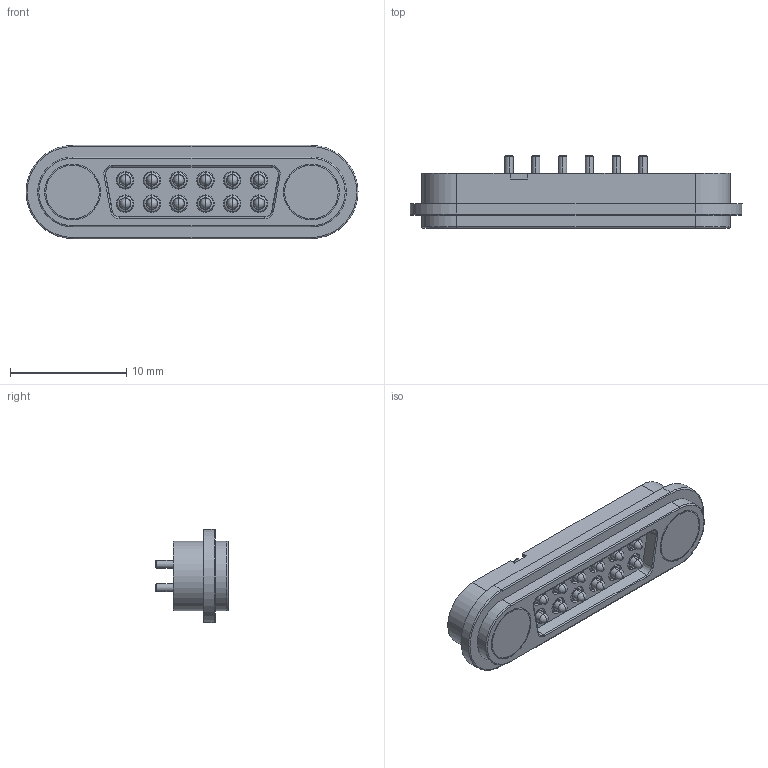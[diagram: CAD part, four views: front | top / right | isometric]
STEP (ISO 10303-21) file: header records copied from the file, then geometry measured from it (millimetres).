
FILE_DESCRIPTION((''),'2;1');
FILE_NAME('A1214_PG0679-12P-2_3PH-__STP_ASM','2026-08-20T',('PMT2 SFT'),(''),'PRO/ENGINEER BY PARAMETRIC TECHNOLOGY CORPORATION, 2011490','PRO/ENGINEER BY PARAMETRIC TECHNOLOGY CORPORATION, 2011490','');
FILE_SCHEMA(('CONFIG_CONTROL_DESIGN'));
Length unit declared in the file: millimetre
Products named in the file (19): _X2_52079664_X0_-_X2_62C94F-693; _X2_52079664_X0_-_X2_62C94F-694; CTX2_ASM; MANIFOLD_SOLID_BREP_695; MANIFOLD_SOLID_BREP_696; MANIFOLD_SOLID_BREP_697; MANIFOLD_SOLID_BREP_698; MANIFOLD_SOLID_BREP_699; MANIFOLD_SOLID_BREP_700; MANIFOLD_SOLID_BREP_701; MANIFOLD_SOLID_BREP_702; MANIFOLD_SOLID_BREP_703; MANIFOLD_SOLID_BREP_704; MANIFOLD_SOLID_BREP_705; MANIFOLD_SOLID_BREP_706; DZX12_ASM; HOUSING; PG0679-12P-2_3PH-_X2_516C_X0__S_ASM; A1214_PG0679-12P-2_3PH-__STP_ASM
Assembly tree (18 placements, depth 4):
  A1214_PG0679-12P-2_3PH-__STP_ASM
    PG0679-12P-2_3PH-_X2_516C_X0__S_ASM
      CTX2_ASM
        _X2_52079664_X0_-_X2_62C94F-693
        _X2_52079664_X0_-_X2_62C94F-694
      DZX12_ASM
        MANIFOLD_SOLID_BREP_695
        MANIFOLD_SOLID_BREP_696
        MANIFOLD_SOLID_BREP_697
        MANIFOLD_SOLID_BREP_698
        MANIFOLD_SOLID_BREP_699
        MANIFOLD_SOLID_BREP_700
        MANIFOLD_SOLID_BREP_701
        MANIFOLD_SOLID_BREP_702
        MANIFOLD_SOLID_BREP_703
        MANIFOLD_SOLID_BREP_704
        MANIFOLD_SOLID_BREP_705
        MANIFOLD_SOLID_BREP_706
      HOUSING
Bounding box: 28.5 x 6.2 x 8 mm (x, y, z)
Volume: 674.6 mm3; surface area: 1574.6 mm2
Topology: 15 solids, 15 shells, 468 faces, 1091 edges, 683 vertices
Faces by surface type: cylinder 182, plane 110, cone 66, torus 64, sphere 24, extrusion 22
Entity records: 14218 total; most frequent: CARTESIAN_POINT 2730, DIRECTION 2630, ORIENTED_EDGE 2134, AXIS2_PLACEMENT_3D 1119, EDGE_CURVE 1067, VERTEX_POINT 683, CIRCLE 619, EDGE_LOOP 550
